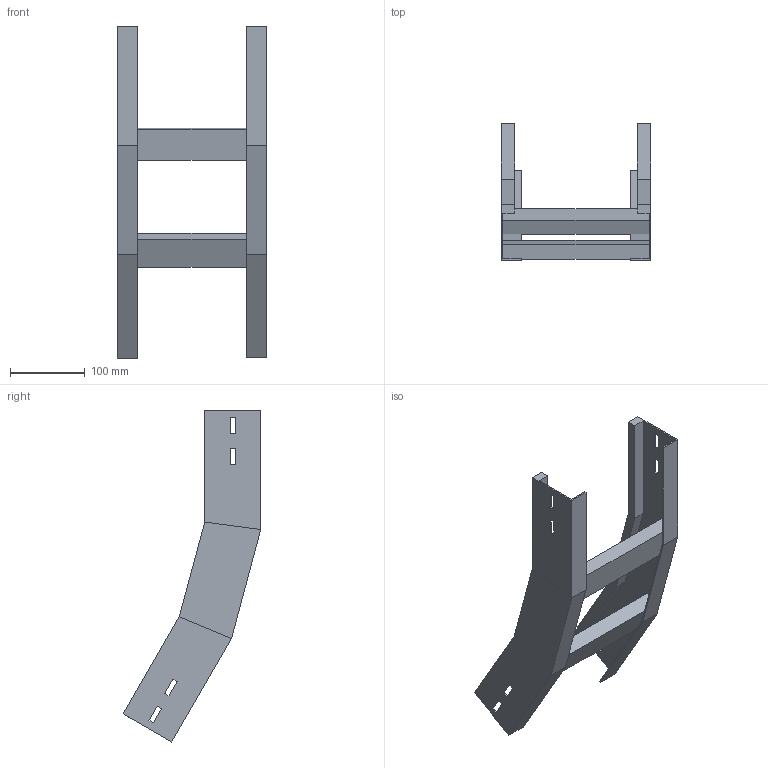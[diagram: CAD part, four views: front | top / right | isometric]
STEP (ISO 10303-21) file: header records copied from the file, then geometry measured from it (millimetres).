
FILE_DESCRIPTION (( 'STEP AP214' ), '1' );
FILE_NAME ('A2X32B5C200XX.step', '2025-03-20T10:01:58', ( '' ), ( '' ), 'SwSTEP 2.0', 'SolidWorks 2023', '' );
FILE_SCHEMA (( 'AUTOMOTIVE_DESIGN' ));
Length unit declared in the file: millimetre
Products named in the file (3): LONGH.SALITA_30°_H75_R500; A2X32B5C200XX; TRAVERSINO_200
Assembly tree (4 placements, depth 2):
  A2X32B5C200XX
    LONGH.SALITA_30°_H75_R500  x2
    TRAVERSINO_200  x2
Bounding box: 200 x 183.88 x 443.86 mm (x, y, z)
Volume: 663919.5 mm3; surface area: 264272.3 mm2
Topology: 4 solids, 4 shells, 96 faces, 232 edges, 144 vertices
Faces by surface type: plane 96
Entity records: 1472 total; most frequent: CARTESIAN_POINT 243, ORIENTED_EDGE 232, DIRECTION 226, EDGE_CURVE 116, VECTOR 116, LINE 116, VERTEX_POINT 72, EDGE_LOOP 56
